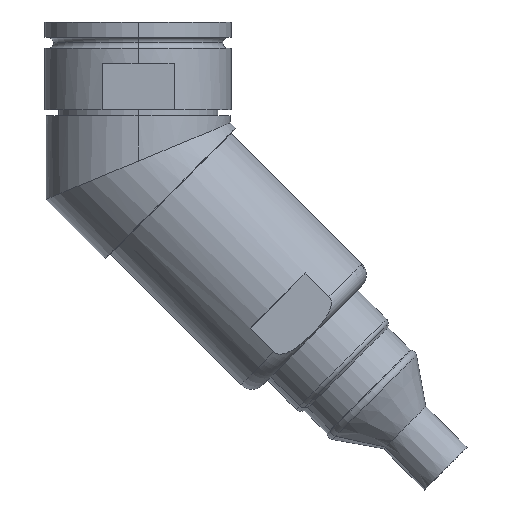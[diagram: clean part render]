
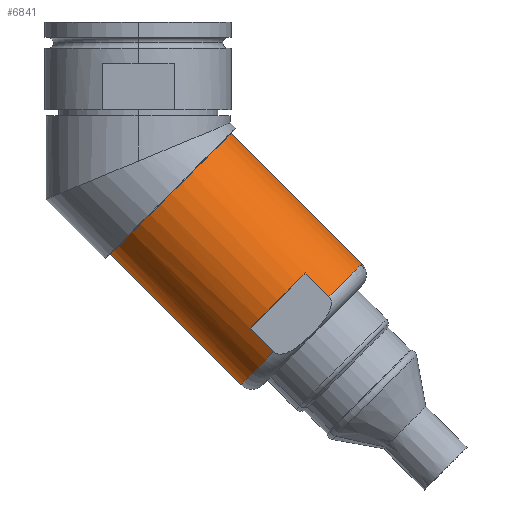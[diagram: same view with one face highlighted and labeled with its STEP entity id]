
A CAD part, left-side view. The second image highlights one B-rep face of the part: STEP entity #6841.
In plain terms, the highlighted cylindrical face has radius 17.691 mm (diameter 35.382 mm), a partial arc.
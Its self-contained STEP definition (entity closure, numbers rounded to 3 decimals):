
#53 = AXIS2_PLACEMENT_3D ( 'NONE', #4034, #648, #3372 ) ;
#62 = CARTESIAN_POINT ( 'NONE',  ( -15.748, -23.135, -57.66 ) ) ;
#255 = DIRECTION ( 'NONE',  ( 0., 0.707, 0.707 ) ) ;
#491 = ORIENTED_EDGE ( 'NONE', *, *, #7558, .T. ) ;
#648 = DIRECTION ( 'NONE',  ( 0., -0.707, -0.707 ) ) ;
#764 = AXIS2_PLACEMENT_3D ( 'NONE', #4633, #1137, #8032 ) ;
#814 = EDGE_CURVE ( 'NONE', #5916, #6401, #7745, .T. ) ;
#1067 = EDGE_CURVE ( 'NONE', #2865, #1358, #6057, .T. ) ;
#1101 = DIRECTION ( 'NONE',  ( 0., 0.707, 0.707 ) ) ;
#1137 = DIRECTION ( 'NONE',  ( 0., 0.707, 0.707 ) ) ;
#1268 = AXIS2_PLACEMENT_3D ( 'NONE', #8199, #6943, #4935 ) ;
#1358 = VERTEX_POINT ( 'NONE', #1795 ) ;
#1460 = EDGE_LOOP ( 'NONE', ( #3770, #491, #3784, #5386, #8770, #4993, #1791, #2354 ) ) ;
#1661 = VERTEX_POINT ( 'NONE', #5722 ) ;
#1770 = VECTOR ( 'NONE', #7343, 1000. ) ;
#1791 = ORIENTED_EDGE ( 'NONE', *, *, #814, .T. ) ;
#1795 = CARTESIAN_POINT ( 'NONE',  ( 0., 5.766, -42.378 ) ) ;
#2029 = LINE ( 'NONE', #62, #2901 ) ;
#2224 = CARTESIAN_POINT ( 'NONE',  ( 0., -33.774, -56.899 ) ) ;
#2336 = EDGE_CURVE ( 'NONE', #4517, #3924, #2453, .T. ) ;
#2354 = ORIENTED_EDGE ( 'NONE', *, *, #5597, .F. ) ;
#2399 = CARTESIAN_POINT ( 'NONE',  ( 0., -6.743, -29.869 ) ) ;
#2453 = LINE ( 'NONE', #7858, #3762 ) ;
#2493 = DIRECTION ( 'NONE',  ( 0., -0.707, 0.707 ) ) ;
#2734 = CARTESIAN_POINT ( 'NONE',  ( 0., 5.766, -42.378 ) ) ;
#2865 = VERTEX_POINT ( 'NONE', #5948 ) ;
#2901 = VECTOR ( 'NONE', #4761, 1000. ) ;
#3229 = DIRECTION ( 'NONE',  ( 0., -0.707, -0.707 ) ) ;
#3372 = DIRECTION ( 'NONE',  ( 0., -0.707, 0.707 ) ) ;
#3560 = CARTESIAN_POINT ( 'NONE',  ( -15.748, -39.474, -51.2 ) ) ;
#3762 = VECTOR ( 'NONE', #3229, 1000. ) ;
#3770 = ORIENTED_EDGE ( 'NONE', *, *, #1067, .F. ) ;
#3784 = ORIENTED_EDGE ( 'NONE', *, *, #7672, .F. ) ;
#3924 = VERTEX_POINT ( 'NONE', #3560 ) ;
#3961 = CARTESIAN_POINT ( 'NONE',  ( -15.748, -28.074, -62.599 ) ) ;
#4034 = CARTESIAN_POINT ( 'NONE',  ( 0., -28.835, -51.96 ) ) ;
#4047 = CARTESIAN_POINT ( 'NONE',  ( 0., -46.283, -44.39 ) ) ;
#4059 = AXIS2_PLACEMENT_3D ( 'NONE', #2224, #255, #7664 ) ;
#4180 = VERTEX_POINT ( 'NONE', #3961 ) ;
#4340 = CIRCLE ( 'NONE', #4059, 17.691 ) ;
#4517 = VERTEX_POINT ( 'NONE', #5319 ) ;
#4633 = CARTESIAN_POINT ( 'NONE',  ( 0., -33.774, -56.899 ) ) ;
#4761 = DIRECTION ( 'NONE',  ( 0., -0.707, -0.707 ) ) ;
#4767 = CIRCLE ( 'NONE', #53, 17.691 ) ;
#4928 = CARTESIAN_POINT ( 'NONE',  ( 0., -19.253, -17.359 ) ) ;
#4935 = DIRECTION ( 'NONE',  ( 0., -0.707, 0.707 ) ) ;
#4993 = ORIENTED_EDGE ( 'NONE', *, *, #8531, .T. ) ;
#5319 = CARTESIAN_POINT ( 'NONE',  ( -15.748, -34.535, -46.26 ) ) ;
#5386 = ORIENTED_EDGE ( 'NONE', *, *, #7998, .F. ) ;
#5597 = EDGE_CURVE ( 'NONE', #1358, #6401, #7785, .T. ) ;
#5722 = CARTESIAN_POINT ( 'NONE',  ( -15.748, -23.135, -57.66 ) ) ;
#5772 = FACE_OUTER_BOUND ( 'NONE', #1460, .T. ) ;
#5916 = VERTEX_POINT ( 'NONE', #4047 ) ;
#5948 = CARTESIAN_POINT ( 'NONE',  ( 0., -21.264, -69.409 ) ) ;
#6057 = LINE ( 'NONE', #2734, #1770 ) ;
#6145 = AXIS2_PLACEMENT_3D ( 'NONE', #2399, #1101, #2493 ) ;
#6401 = VERTEX_POINT ( 'NONE', #6792 ) ;
#6792 = CARTESIAN_POINT ( 'NONE',  ( 0., -19.253, -17.359 ) ) ;
#6841 = ADVANCED_FACE ( 'NONE', ( #5772 ), #7227, .T. ) ;
#6849 = CIRCLE ( 'NONE', #764, 17.691 ) ;
#6943 = DIRECTION ( 'NONE',  ( 0., 0.707, 0.707 ) ) ;
#7227 = CYLINDRICAL_SURFACE ( 'NONE', #6145, 17.691 ) ;
#7343 = DIRECTION ( 'NONE',  ( 0., 0.707, 0.707 ) ) ;
#7558 = EDGE_CURVE ( 'NONE', #2865, #4180, #6849, .T. ) ;
#7655 = DIRECTION ( 'NONE',  ( 0., 0.707, 0.707 ) ) ;
#7664 = DIRECTION ( 'NONE',  ( 0., -0.707, 0.707 ) ) ;
#7672 = EDGE_CURVE ( 'NONE', #1661, #4180, #2029, .T. ) ;
#7745 = LINE ( 'NONE', #4928, #8699 ) ;
#7785 = CIRCLE ( 'NONE', #1268, 17.691 ) ;
#7858 = CARTESIAN_POINT ( 'NONE',  ( -15.748, -34.535, -46.26 ) ) ;
#7998 = EDGE_CURVE ( 'NONE', #4517, #1661, #4767, .T. ) ;
#8032 = DIRECTION ( 'NONE',  ( 0., -0.707, 0.707 ) ) ;
#8199 = CARTESIAN_POINT ( 'NONE',  ( 0., -6.743, -29.869 ) ) ;
#8531 = EDGE_CURVE ( 'NONE', #3924, #5916, #4340, .T. ) ;
#8699 = VECTOR ( 'NONE', #7655, 1000. ) ;
#8770 = ORIENTED_EDGE ( 'NONE', *, *, #2336, .T. ) ;
